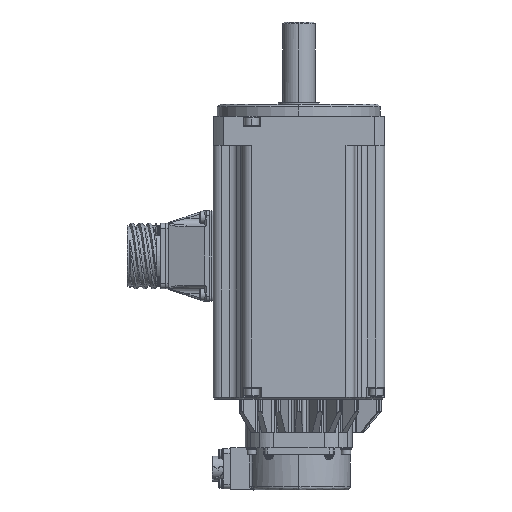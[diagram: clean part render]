
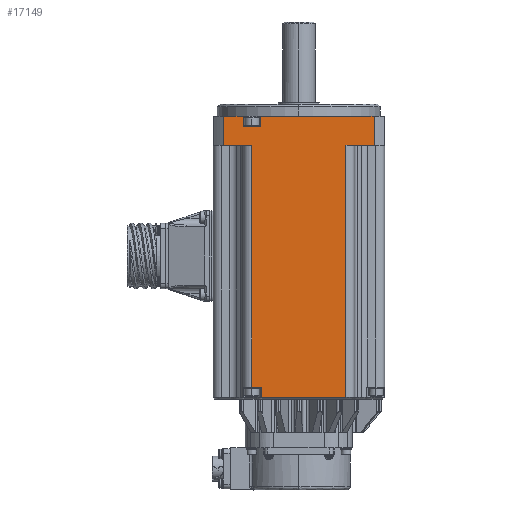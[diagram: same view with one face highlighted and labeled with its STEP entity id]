
A CAD part, left-side view. The second image highlights one B-rep face of the part: STEP entity #17149.
In plain terms, the highlighted planar face has unit normal (-1, 0, 0).
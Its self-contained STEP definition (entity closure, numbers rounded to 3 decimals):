
#501 = CARTESIAN_POINT ( 'NONE',  ( 108.986, -64.04, -82.5 ) ) ;
#666 = DIRECTION ( 'NONE',  ( 0., -1., 0. ) ) ;
#2056 = ORIENTED_EDGE ( 'NONE', *, *, #32124, .F. ) ;
#3090 = DIRECTION ( 'NONE',  ( 0., 0., -1. ) ) ;
#3503 = EDGE_CURVE ( 'NONE', #13386, #47384, #46869, .T. ) ;
#3626 = CARTESIAN_POINT ( 'NONE',  ( 108.986, -211.04, -82.5 ) ) ;
#3737 = VERTEX_POINT ( 'NONE', #38289 ) ;
#4438 = VERTEX_POINT ( 'NONE', #82979 ) ;
#4442 = VERTEX_POINT ( 'NONE', #62892 ) ;
#4744 = ORIENTED_EDGE ( 'NONE', *, *, #86709, .F. ) ;
#4873 = VECTOR ( 'NONE', #5638, 1000. ) ;
#5124 = FACE_OUTER_BOUND ( 'NONE', #54177, .T. ) ;
#5638 = DIRECTION ( 'NONE',  ( 0., 1., 0. ) ) ;
#6765 = VERTEX_POINT ( 'NONE', #62800 ) ;
#6799 = CARTESIAN_POINT ( 'NONE',  ( 108.986, -79.54, -93.843 ) ) ;
#6900 = CARTESIAN_POINT ( 'NONE',  ( 108.986, -211.04, -93.843 ) ) ;
#8742 = EDGE_CURVE ( 'NONE', #44940, #58516, #56001, .T. ) ;
#8806 = VECTOR ( 'NONE', #51674, 1000. ) ;
#9570 = EDGE_CURVE ( 'NONE', #4438, #37375, #57997, .T. ) ;
#12073 = CARTESIAN_POINT ( 'NONE',  ( 108.986, -228.04, -82.5 ) ) ;
#12140 = DIRECTION ( 'NONE',  ( 0., 0., -1. ) ) ;
#12167 = LINE ( 'NONE', #70011, #81975 ) ;
#13386 = VERTEX_POINT ( 'NONE', #71417 ) ;
#17149 = ADVANCED_FACE ( 'NONE', ( #5124 ), #29560, .F. ) ;
#19745 = EDGE_CURVE ( 'NONE', #84337, #4438, #76784, .T. ) ;
#20435 = VECTOR ( 'NONE', #45477, 1000. ) ;
#20576 = AXIS2_PLACEMENT_3D ( 'NONE', #70037, #36367, #83583 ) ;
#21019 = ORIENTED_EDGE ( 'NONE', *, *, #3503, .F. ) ;
#21187 = ORIENTED_EDGE ( 'NONE', *, *, #19745, .F. ) ;
#22208 = ORIENTED_EDGE ( 'NONE', *, *, #9570, .F. ) ;
#22565 = LINE ( 'NONE', #85867, #20435 ) ;
#24569 = VERTEX_POINT ( 'NONE', #6900 ) ;
#24611 = CARTESIAN_POINT ( 'NONE',  ( 108.986, -222.04, -82.5 ) ) ;
#25135 = DIRECTION ( 'NONE',  ( 0., 0., -1. ) ) ;
#26302 = LINE ( 'NONE', #48045, #62249 ) ;
#26660 = CARTESIAN_POINT ( 'NONE',  ( 108.986, -222.04, -27.5 ) ) ;
#27222 = DIRECTION ( 'NONE',  ( 0., 1., 0. ) ) ;
#28466 = EDGE_CURVE ( 'NONE', #58516, #57626, #12167, .T. ) ;
#28659 = LINE ( 'NONE', #3626, #62493 ) ;
#28823 = VECTOR ( 'NONE', #3090, 1000. ) ;
#29560 = PLANE ( 'NONE',  #20576 ) ;
#30384 = ORIENTED_EDGE ( 'NONE', *, *, #87215, .F. ) ;
#30398 = VECTOR ( 'NONE', #25135, 1000. ) ;
#32124 = EDGE_CURVE ( 'NONE', #3737, #6765, #78611, .T. ) ;
#32193 = EDGE_CURVE ( 'NONE', #37375, #13386, #22565, .T. ) ;
#33212 = LINE ( 'NONE', #501, #49113 ) ;
#36038 = CARTESIAN_POINT ( 'NONE',  ( 108.986, -211.04, -6.157 ) ) ;
#36367 = DIRECTION ( 'NONE',  ( 1., 0., 0. ) ) ;
#37375 = VERTEX_POINT ( 'NONE', #26660 ) ;
#37969 = DIRECTION ( 'NONE',  ( 0., 0., 1. ) ) ;
#37994 = VECTOR ( 'NONE', #12140, 1000. ) ;
#38080 = VECTOR ( 'NONE', #37969, 1000. ) ;
#38289 = CARTESIAN_POINT ( 'NONE',  ( 108.986, -211.04, -77.5 ) ) ;
#38582 = LINE ( 'NONE', #6799, #72375 ) ;
#40520 = CARTESIAN_POINT ( 'NONE',  ( 108.986, -70.04, -22.5 ) ) ;
#41566 = EDGE_CURVE ( 'NONE', #57626, #74580, #28659, .T. ) ;
#42316 = VECTOR ( 'NONE', #62635, 1000. ) ;
#44184 = DIRECTION ( 'NONE',  ( 0., 0., 1. ) ) ;
#44357 = ORIENTED_EDGE ( 'NONE', *, *, #41566, .F. ) ;
#44889 = CARTESIAN_POINT ( 'NONE',  ( 108.986, -79.54, -77.5 ) ) ;
#44940 = VERTEX_POINT ( 'NONE', #82622 ) ;
#45477 = DIRECTION ( 'NONE',  ( 0., -1., 0. ) ) ;
#46387 = VECTOR ( 'NONE', #66047, 1000. ) ;
#46869 = LINE ( 'NONE', #50146, #28823 ) ;
#47384 = VERTEX_POINT ( 'NONE', #61222 ) ;
#48045 = CARTESIAN_POINT ( 'NONE',  ( 108.986, -79.54, -28. ) ) ;
#48434 = LINE ( 'NONE', #12073, #30398 ) ;
#48834 = CARTESIAN_POINT ( 'NONE',  ( 108.986, -211.04, -82.5 ) ) ;
#49113 = VECTOR ( 'NONE', #68188, 1000. ) ;
#49969 = DIRECTION ( 'NONE',  ( 0., -1., 0. ) ) ;
#50146 = CARTESIAN_POINT ( 'NONE',  ( 108.986, -228.04, -82.5 ) ) ;
#51043 = ORIENTED_EDGE ( 'NONE', *, *, #28466, .F. ) ;
#51674 = DIRECTION ( 'NONE',  ( 0., 1., 0. ) ) ;
#51998 = ORIENTED_EDGE ( 'NONE', *, *, #69104, .F. ) ;
#52128 = VERTEX_POINT ( 'NONE', #52820 ) ;
#52820 = CARTESIAN_POINT ( 'NONE',  ( 108.986, -228.04, -6.157 ) ) ;
#54171 = ORIENTED_EDGE ( 'NONE', *, *, #8742, .F. ) ;
#54177 = EDGE_LOOP ( 'NONE', ( #22208, #21187, #72222, #61515, #44357, #51043, #54171, #83164, #30384, #2056, #51998, #4744, #21019, #78157 ) ) ;
#55944 = EDGE_CURVE ( 'NONE', #52128, #84337, #48434, .T. ) ;
#56001 = LINE ( 'NONE', #71606, #38080 ) ;
#57626 = VERTEX_POINT ( 'NONE', #63950 ) ;
#57997 = LINE ( 'NONE', #24611, #37994 ) ;
#58516 = VERTEX_POINT ( 'NONE', #40520 ) ;
#59233 = CARTESIAN_POINT ( 'NONE',  ( 108.986, -79.54, -6.157 ) ) ;
#61222 = CARTESIAN_POINT ( 'NONE',  ( 108.986, -228.04, -93.843 ) ) ;
#61515 = ORIENTED_EDGE ( 'NONE', *, *, #81025, .F. ) ;
#62249 = VECTOR ( 'NONE', #666, 1000. ) ;
#62493 = VECTOR ( 'NONE', #44184, 1000. ) ;
#62635 = DIRECTION ( 'NONE',  ( 0., 0., 1. ) ) ;
#62800 = CARTESIAN_POINT ( 'NONE',  ( 108.986, -64.04, -77.5 ) ) ;
#62892 = CARTESIAN_POINT ( 'NONE',  ( 108.986, -64.04, -28. ) ) ;
#63950 = CARTESIAN_POINT ( 'NONE',  ( 108.986, -211.04, -22.5 ) ) ;
#64290 = LINE ( 'NONE', #59233, #46387 ) ;
#66047 = DIRECTION ( 'NONE',  ( 0., -1., 0. ) ) ;
#68188 = DIRECTION ( 'NONE',  ( 0., 0., 1. ) ) ;
#69104 = EDGE_CURVE ( 'NONE', #24569, #3737, #78204, .T. ) ;
#70003 = EDGE_CURVE ( 'NONE', #4442, #44940, #26302, .T. ) ;
#70011 = CARTESIAN_POINT ( 'NONE',  ( 108.986, -79.54, -22.5 ) ) ;
#70037 = CARTESIAN_POINT ( 'NONE',  ( 108.986, -79.54, -82.5 ) ) ;
#71417 = CARTESIAN_POINT ( 'NONE',  ( 108.986, -228.04, -27.5 ) ) ;
#71606 = CARTESIAN_POINT ( 'NONE',  ( 108.986, -70.04, -82.5 ) ) ;
#72222 = ORIENTED_EDGE ( 'NONE', *, *, #55944, .F. ) ;
#72375 = VECTOR ( 'NONE', #27222, 1000. ) ;
#72577 = CARTESIAN_POINT ( 'NONE',  ( 108.986, -228.04, -17.5 ) ) ;
#73027 = CARTESIAN_POINT ( 'NONE',  ( 108.986, -79.54, -17.5 ) ) ;
#74580 = VERTEX_POINT ( 'NONE', #36038 ) ;
#76784 = LINE ( 'NONE', #73027, #4873 ) ;
#78157 = ORIENTED_EDGE ( 'NONE', *, *, #32193, .F. ) ;
#78204 = LINE ( 'NONE', #48834, #42316 ) ;
#78611 = LINE ( 'NONE', #44889, #8806 ) ;
#81025 = EDGE_CURVE ( 'NONE', #74580, #52128, #64290, .T. ) ;
#81975 = VECTOR ( 'NONE', #49969, 1000. ) ;
#82622 = CARTESIAN_POINT ( 'NONE',  ( 108.986, -70.04, -28. ) ) ;
#82979 = CARTESIAN_POINT ( 'NONE',  ( 108.986, -222.04, -17.5 ) ) ;
#83164 = ORIENTED_EDGE ( 'NONE', *, *, #70003, .F. ) ;
#83583 = DIRECTION ( 'NONE',  ( 0., 1., 0. ) ) ;
#84337 = VERTEX_POINT ( 'NONE', #72577 ) ;
#85867 = CARTESIAN_POINT ( 'NONE',  ( 108.986, -79.54, -27.5 ) ) ;
#86709 = EDGE_CURVE ( 'NONE', #47384, #24569, #38582, .T. ) ;
#87215 = EDGE_CURVE ( 'NONE', #6765, #4442, #33212, .T. ) ;
